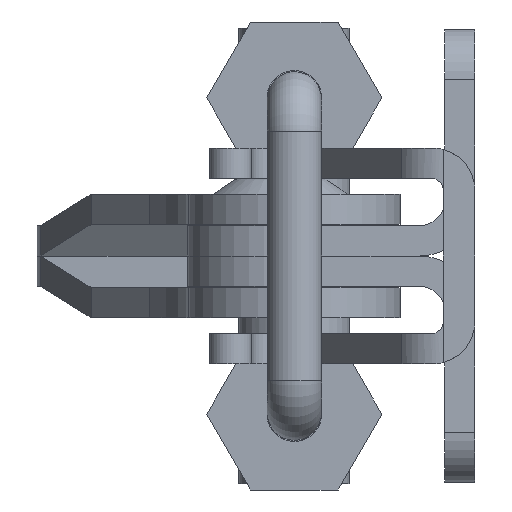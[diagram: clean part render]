
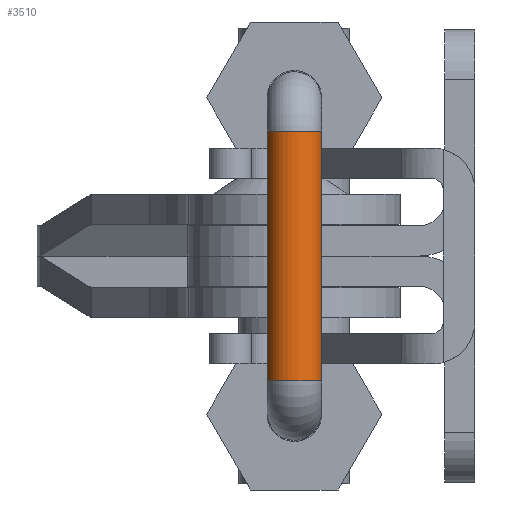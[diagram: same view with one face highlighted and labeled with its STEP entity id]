
A CAD part, left-side view. The second image highlights one B-rep face of the part: STEP entity #3510.
In plain terms, the highlighted cylindrical face has radius 1.714 mm (diameter 3.429 mm), a full revolution.
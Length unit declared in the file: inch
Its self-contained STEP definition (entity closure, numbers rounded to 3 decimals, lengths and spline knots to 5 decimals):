
#3218=CARTESIAN_POINT('',(12.24681,2.75566,0.1947));
#3219=VERTEX_POINT('',#3218);
#3220=CARTESIAN_POINT('',(12.24681,2.62066,0.1947));
#3221=VERTEX_POINT('',#3220);
#3222=CARTESIAN_POINT('',(12.24681,2.68816,0.1947));
#3223=DIRECTION('',(0.0,0.0,-1.0));
#3224=DIRECTION('',(-1.0,0.0,0.0));
#3225=AXIS2_PLACEMENT_3D('',#3222,#3223,#3224);
#3226=CIRCLE('',#3225,0.0675);
#3227=EDGE_CURVE('',#3219,#3221,#3226,.T.);
#3229=CARTESIAN_POINT('',(12.2475,2.75565,0.2112));
#3230=VERTEX_POINT('',#3229);
#3231=CARTESIAN_POINT('',(12.24681,2.75566,0.1947));
#3232=CARTESIAN_POINT('',(12.24681,2.75566,0.19566));
#3233=CARTESIAN_POINT('',(12.24682,2.75566,0.19662));
#3234=CARTESIAN_POINT('',(12.2469,2.75566,0.20213));
#3235=CARTESIAN_POINT('',(12.24712,2.75566,0.20668));
#3236=CARTESIAN_POINT('',(12.2475,2.75565,0.2112));
#3237=B_SPLINE_CURVE_WITH_KNOTS('',3,(#3231,#3232,#3233,#3234,#3235,#3236),.UNSPECIFIED.,.F.,.U.,(4,2,4),(-0.65519,-0.65136,-0.63313),.UNSPECIFIED.);
#3238=EDGE_CURVE('',#3219,#3230,#3237,.T.);
#3240=CARTESIAN_POINT('',(12.2475,2.62066,0.2112));
#3241=VERTEX_POINT('',#3240);
#3264=CARTESIAN_POINT('',(12.2475,2.62066,0.2112));
#3265=CARTESIAN_POINT('',(12.24713,2.62066,0.20678));
#3266=CARTESIAN_POINT('',(12.2469,2.62066,0.20224));
#3267=CARTESIAN_POINT('',(12.24682,2.62066,0.19662));
#3268=CARTESIAN_POINT('',(12.24681,2.62066,0.19566));
#3269=CARTESIAN_POINT('',(12.24681,2.62066,0.1947));
#3270=B_SPLINE_CURVE_WITH_KNOTS('',3,(#3264,#3265,#3266,#3267,#3268,#3269),.UNSPECIFIED.,.F.,.U.,(4,2,4),(-0.01399,0.0,0.00287),.UNSPECIFIED.);
#3271=EDGE_CURVE('',#3241,#3221,#3270,.T.);
#3394=CARTESIAN_POINT('',(12.24681,2.62066,-0.3903));
#3395=VERTEX_POINT('',#3394);
#3396=CARTESIAN_POINT('',(12.24681,2.75566,-0.3903));
#3397=VERTEX_POINT('',#3396);
#3398=CARTESIAN_POINT('',(12.24681,2.68816,-0.3903));
#3399=DIRECTION('',(0.0,0.0,1.0));
#3400=DIRECTION('',(1.0,0.0,0.0));
#3401=AXIS2_PLACEMENT_3D('',#3398,#3399,#3400);
#3402=CIRCLE('',#3401,0.0675);
#3403=EDGE_CURVE('',#3395,#3397,#3402,.T.);
#3405=CARTESIAN_POINT('',(12.2475,2.62066,-0.4068));
#3406=VERTEX_POINT('',#3405);
#3407=CARTESIAN_POINT('',(12.2475,2.62066,-0.4068));
#3408=CARTESIAN_POINT('',(12.24713,2.62066,-0.40238));
#3409=CARTESIAN_POINT('',(12.2469,2.62066,-0.39783));
#3410=CARTESIAN_POINT('',(12.24682,2.62066,-0.39221));
#3411=CARTESIAN_POINT('',(12.24681,2.62066,-0.39125));
#3412=CARTESIAN_POINT('',(12.24681,2.62066,-0.3903));
#3413=B_SPLINE_CURVE_WITH_KNOTS('',3,(#3407,#3408,#3409,#3410,#3411,#3412),.UNSPECIFIED.,.F.,.U.,(4,2,4),(0.47796,0.48845,0.4906),.UNSPECIFIED.);
#3414=EDGE_CURVE('',#3406,#3395,#3413,.T.);
#3416=CARTESIAN_POINT('',(12.2475,2.75565,-0.4068));
#3417=VERTEX_POINT('',#3416);
#3440=CARTESIAN_POINT('',(12.24681,2.75566,-0.3903));
#3441=CARTESIAN_POINT('',(12.24681,2.75566,-0.39125));
#3442=CARTESIAN_POINT('',(12.24682,2.75566,-0.39221));
#3443=CARTESIAN_POINT('',(12.2469,2.75566,-0.39772));
#3444=CARTESIAN_POINT('',(12.24712,2.75566,-0.40227));
#3445=CARTESIAN_POINT('',(12.2475,2.75565,-0.4068));
#3446=B_SPLINE_CURVE_WITH_KNOTS('',3,(#3440,#3441,#3442,#3443,#3444,#3445),.UNSPECIFIED.,.F.,.U.,(4,2,4),(-0.00287,0.0,0.01367),.UNSPECIFIED.);
#3447=EDGE_CURVE('',#3397,#3417,#3446,.T.);
#3481=CARTESIAN_POINT('',(12.24681,2.68816,0.0567));
#3482=DIRECTION('',(0.0,0.0,-1.0));
#3483=DIRECTION('',(1.0,0.0,0.0));
#3484=AXIS2_PLACEMENT_3D('',#3481,#3482,#3483);
#3485=CYLINDRICAL_SURFACE('',#3484,0.0675);
#3486=CARTESIAN_POINT('',(12.24681,2.68816,0.2112));
#3487=DIRECTION('',(0.0,0.0,1.0));
#3488=DIRECTION('',(1.0,0.0,0.0));
#3489=AXIS2_PLACEMENT_3D('',#3486,#3487,#3488);
#3490=CIRCLE('',#3489,0.0675);
#3491=EDGE_CURVE('',#3230,#3241,#3490,.T.);
#3492=ORIENTED_EDGE('',*,*,#3491,.F.);
#3493=ORIENTED_EDGE('',*,*,#3238,.F.);
#3494=ORIENTED_EDGE('',*,*,#3227,.T.);
#3495=ORIENTED_EDGE('',*,*,#3271,.F.);
#3496=EDGE_LOOP('',(#3492,#3493,#3494,#3495));
#3497=FACE_OUTER_BOUND('',#3496,.T.);
#3498=CARTESIAN_POINT('',(12.24681,2.68816,-0.4068));
#3499=DIRECTION('',(0.0,0.0,-1.0));
#3500=DIRECTION('',(1.0,0.0,0.0));
#3501=AXIS2_PLACEMENT_3D('',#3498,#3499,#3500);
#3502=CIRCLE('',#3501,0.0675);
#3503=EDGE_CURVE('',#3406,#3417,#3502,.T.);
#3504=ORIENTED_EDGE('',*,*,#3503,.F.);
#3505=ORIENTED_EDGE('',*,*,#3414,.T.);
#3506=ORIENTED_EDGE('',*,*,#3403,.T.);
#3507=ORIENTED_EDGE('',*,*,#3447,.T.);
#3508=EDGE_LOOP('',(#3504,#3505,#3506,#3507));
#3509=FACE_BOUND('',#3508,.T.);
#3510=ADVANCED_FACE('',(#3497,#3509),#3485,.T.);
